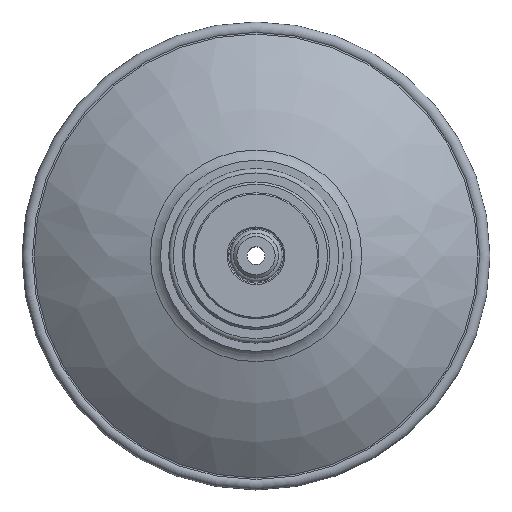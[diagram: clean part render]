
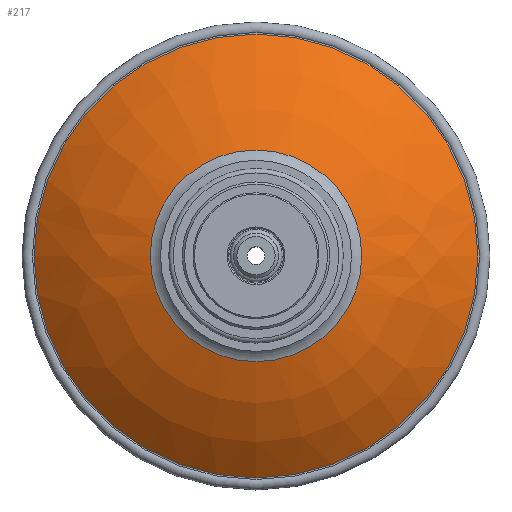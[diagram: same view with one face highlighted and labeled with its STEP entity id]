
A CAD part, top view. The second image highlights one B-rep face of the part: STEP entity #217.
In plain terms, the highlighted free-form (B-spline) face has degree [3, 3] with [4, 7] control points.
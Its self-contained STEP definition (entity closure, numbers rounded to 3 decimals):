
#217 = ADVANCED_FACE( '', ( #473, #474 ), #475, .T. );
#473 = FACE_OUTER_BOUND( '', #816, .T. );
#474 = FACE_OUTER_BOUND( '', #817, .T. );
#475 = ( BOUNDED_SURFACE(  )B_SPLINE_SURFACE( 3, 3, ( ( #820, #821, #822, #823, #824, #825, #826 ), ( #827, #828, #829, #830, #831, #832, #833 ), ( #834, #835, #836, #837, #838, #839, #840 ), ( #841, #842, #843, #844, #845, #846, #847 ) ), .UNSPECIFIED., .F., .T., .F. )B_SPLINE_SURFACE_WITH_KNOTS( ( 4, 4 ), ( 4, 3, 4 ), ( 0., 6.283 ), ( 0.856, 1.069, 1.281 ), .UNSPECIFIED. )GEOMETRIC_REPRESENTATION_ITEM(  )RATIONAL_B_SPLINE_SURFACE( ( ( 1., 0.333, 0.333, 1., 0.333, 0.333, 1. ), ( 0.985, 0.328, 0.328, 0.985, 0.328, 0.328, 0.985 ), ( 0.985, 0.328, 0.328, 0.985, 0.328, 0.328, 0.985 ), ( 1., 0.333, 0.333, 1., 0.333, 0.333, 1. ) ) )REPRESENTATION_ITEM( '' )SURFACE(  ) );
#816 = EDGE_LOOP( '', ( #1210 ) );
#817 = EDGE_LOOP( '', ( #1211 ) );
#820 = CARTESIAN_POINT( '', ( 23.489, 0., 2.656 ) );
#821 = CARTESIAN_POINT( '', ( 23.489, 47.024, 2.656 ) );
#822 = CARTESIAN_POINT( '', ( -23.535, 47.024, 2.656 ) );
#823 = CARTESIAN_POINT( '', ( -23.535, 0., 2.656 ) );
#824 = CARTESIAN_POINT( '', ( -23.535, -47.024, 2.656 ) );
#825 = CARTESIAN_POINT( '', ( 23.489, -47.024, 2.656 ) );
#826 = CARTESIAN_POINT( '', ( 23.489, 0., 2.656 ) );
#827 = CARTESIAN_POINT( '', ( 33.037, 0., -0.186 ) );
#828 = CARTESIAN_POINT( '', ( 33.037, 66.12, -0.186 ) );
#829 = CARTESIAN_POINT( '', ( -33.083, 66.12, -0.186 ) );
#830 = CARTESIAN_POINT( '', ( -33.083, 0., -0.186 ) );
#831 = CARTESIAN_POINT( '', ( -33.083, -66.12, -0.186 ) );
#832 = CARTESIAN_POINT( '', ( 33.037, -66.12, -0.186 ) );
#833 = CARTESIAN_POINT( '', ( 33.037, 0., -0.186 ) );
#834 = CARTESIAN_POINT( '', ( 41.769, 0., -4.982 ) );
#835 = CARTESIAN_POINT( '', ( 41.769, 83.584, -4.982 ) );
#836 = CARTESIAN_POINT( '', ( -41.815, 83.584, -4.982 ) );
#837 = CARTESIAN_POINT( '', ( -41.815, 0., -4.982 ) );
#838 = CARTESIAN_POINT( '', ( -41.815, -83.584, -4.982 ) );
#839 = CARTESIAN_POINT( '', ( 41.769, -83.584, -4.982 ) );
#840 = CARTESIAN_POINT( '', ( 41.769, 0., -4.982 ) );
#841 = CARTESIAN_POINT( '', ( 49.29, 0., -11.514 ) );
#842 = CARTESIAN_POINT( '', ( 49.29, 98.627, -11.514 ) );
#843 = CARTESIAN_POINT( '', ( -49.337, 98.627, -11.514 ) );
#844 = CARTESIAN_POINT( '', ( -49.337, 0., -11.514 ) );
#845 = CARTESIAN_POINT( '', ( -49.337, -98.627, -11.514 ) );
#846 = CARTESIAN_POINT( '', ( 49.29, -98.627, -11.514 ) );
#847 = CARTESIAN_POINT( '', ( 49.29, 0., -11.514 ) );
#1210 = ORIENTED_EDGE( '', *, *, #1385, .T. );
#1211 = ORIENTED_EDGE( '', *, *, #1396, .F. );
#1385 = EDGE_CURVE( '', #1568, #1568, #1569, .T. );
#1396 = EDGE_CURVE( '', #1583, #1583, #1584, .T. );
#1568 = VERTEX_POINT( '', #1758 );
#1569 = CIRCLE( '', #1759, 49.314 );
#1583 = VERTEX_POINT( '', #1773 );
#1584 = CIRCLE( '', #1774, 23.512 );
#1758 = CARTESIAN_POINT( '', ( 49.29, 0., -11.514 ) );
#1759 = AXIS2_PLACEMENT_3D( '', #1959, #1960, #1961 );
#1773 = CARTESIAN_POINT( '', ( 23.489, 0., 2.656 ) );
#1774 = AXIS2_PLACEMENT_3D( '', #1971, #1972, #1973 );
#1959 = CARTESIAN_POINT( '', ( -0.023, 0., -11.514 ) );
#1960 = DIRECTION( '', ( 0., 0., 1. ) );
#1961 = DIRECTION( '', ( 1., 0., 0. ) );
#1971 = CARTESIAN_POINT( '', ( -0.023, 0., 2.656 ) );
#1972 = DIRECTION( '', ( 0., 0., 1. ) );
#1973 = DIRECTION( '', ( 1., 0., 0. ) );
